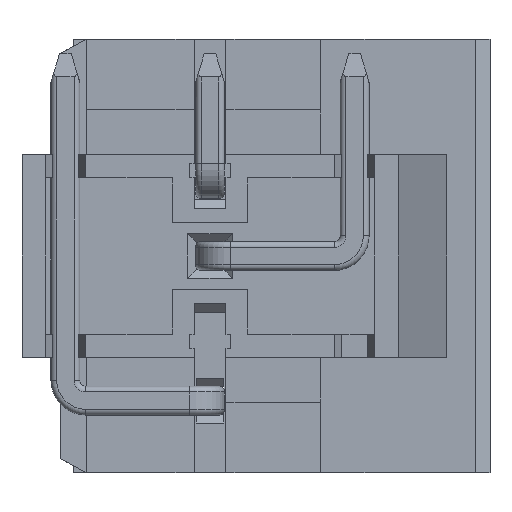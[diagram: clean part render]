
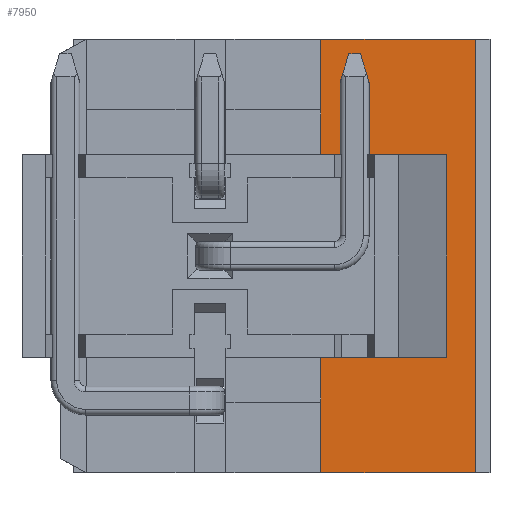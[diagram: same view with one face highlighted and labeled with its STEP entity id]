
A CAD part, front view. The second image highlights one B-rep face of the part: STEP entity #7950.
In plain terms, the highlighted planar face has unit normal (0, -1, 0).
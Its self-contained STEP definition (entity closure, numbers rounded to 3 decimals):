
#213=DIRECTION('',(0.,0.,1.));
#214=VECTOR('',#213,15.);
#215=CARTESIAN_POINT('',(9.18,8.6,-7.5));
#216=LINE('',#215,#214);
#217=DIRECTION('',(-1.,0.,0.));
#218=VECTOR('',#217,5.35);
#219=CARTESIAN_POINT('',(9.18,8.6,-7.5));
#220=LINE('',#219,#218);
#221=DIRECTION('',(0.,0.,1.));
#222=VECTOR('',#221,7.);
#223=CARTESIAN_POINT('',(3.83,8.6,-7.5));
#224=LINE('',#223,#222);
#225=DIRECTION('',(0.,0.,1.));
#226=VECTOR('',#225,3.);
#227=CARTESIAN_POINT('',(7.18,8.6,-3.5));
#228=LINE('',#227,#226);
#229=DIRECTION('',(1.,0.,0.));
#230=VECTOR('',#229,1.);
#231=CARTESIAN_POINT('',(7.18,8.6,-3.5));
#232=LINE('',#231,#230);
#233=DIRECTION('',(0.,0.,1.));
#234=VECTOR('',#233,7.);
#235=CARTESIAN_POINT('',(8.18,8.6,-3.5));
#236=LINE('',#235,#234);
#237=DIRECTION('',(1.,0.,0.));
#238=VECTOR('',#237,1.);
#239=CARTESIAN_POINT('',(7.18,8.6,3.5));
#240=LINE('',#239,#238);
#241=DIRECTION('',(0.,0.,-1.));
#242=VECTOR('',#241,3.);
#243=CARTESIAN_POINT('',(7.18,8.6,3.5));
#244=LINE('',#243,#242);
#245=DIRECTION('',(0.,0.,1.));
#246=VECTOR('',#245,7.);
#247=CARTESIAN_POINT('',(3.83,8.6,0.5));
#248=LINE('',#247,#246);
#249=DIRECTION('',(1.,0.,0.));
#250=VECTOR('',#249,5.35);
#251=CARTESIAN_POINT('',(3.83,8.6,7.5));
#252=LINE('',#251,#250);
#1327=DIRECTION('',(-1.,0.,0.));
#1328=VECTOR('',#1327,3.35);
#1329=CARTESIAN_POINT('',(7.18,8.6,0.5));
#1330=LINE('',#1329,#1328);
#6155=DIRECTION('',(-1.,0.,0.));
#6156=VECTOR('',#6155,3.35);
#6157=CARTESIAN_POINT('',(7.18,8.6,-0.5));
#6158=LINE('',#6157,#6156);
#6354=CARTESIAN_POINT('',(3.83,8.6,7.5));
#6355=VERTEX_POINT('',#6354);
#6356=CARTESIAN_POINT('',(3.83,8.6,-7.5));
#6357=VERTEX_POINT('',#6356);
#6374=CARTESIAN_POINT('',(8.18,8.6,-3.5));
#6375=CARTESIAN_POINT('',(8.18,8.6,3.5));
#6376=VERTEX_POINT('',#6374);
#6377=VERTEX_POINT('',#6375);
#6386=CARTESIAN_POINT('',(3.83,8.6,0.5));
#6388=VERTEX_POINT('',#6386);
#6394=CARTESIAN_POINT('',(7.18,8.6,0.5));
#6395=VERTEX_POINT('',#6394);
#6408=CARTESIAN_POINT('',(7.18,8.6,3.5));
#6409=VERTEX_POINT('',#6408);
#6416=CARTESIAN_POINT('',(3.83,8.6,-0.5));
#6418=VERTEX_POINT('',#6416);
#6424=CARTESIAN_POINT('',(7.18,8.6,-0.5));
#6425=VERTEX_POINT('',#6424);
#6438=CARTESIAN_POINT('',(7.18,8.6,-3.5));
#6439=VERTEX_POINT('',#6438);
#6926=CARTESIAN_POINT('',(9.18,8.6,7.5));
#6928=VERTEX_POINT('',#6926);
#6932=CARTESIAN_POINT('',(9.18,8.6,-7.5));
#6933=VERTEX_POINT('',#6932);
#7922=CARTESIAN_POINT('',(0.,8.6,-2.5));
#7923=DIRECTION('',(0.,1.,0.));
#7924=DIRECTION('',(1.,0.,0.));
#7925=AXIS2_PLACEMENT_3D('',#7922,#7923,#7924);
#7926=PLANE('',#7925);
#7927=ORIENTED_EDGE('',*,*,#7862,.F.);
#7928=ORIENTED_EDGE('',*,*,#7847,.T.);
#7930=ORIENTED_EDGE('',*,*,#7929,.T.);
#7932=ORIENTED_EDGE('',*,*,#7931,.F.);
#7934=ORIENTED_EDGE('',*,*,#7933,.F.);
#7936=ORIENTED_EDGE('',*,*,#7935,.T.);
#7938=ORIENTED_EDGE('',*,*,#7937,.T.);
#7940=ORIENTED_EDGE('',*,*,#7939,.F.);
#7942=ORIENTED_EDGE('',*,*,#7941,.T.);
#7944=ORIENTED_EDGE('',*,*,#7943,.T.);
#7946=ORIENTED_EDGE('',*,*,#7945,.T.);
#7947=ORIENTED_EDGE('',*,*,#7873,.T.);
#7948=EDGE_LOOP('',(#7927,#7928,#7930,#7932,#7934,#7936,#7938,#7940,#7942,#7944,
#7946,#7947));
#7949=FACE_OUTER_BOUND('',#7948,.F.);
#7950=ADVANCED_FACE('',(#7949),#7926,.F.);
#7847=EDGE_CURVE('',#6933,#6357,#220,.T.);
#7862=EDGE_CURVE('',#6933,#6928,#216,.T.);
#7873=EDGE_CURVE('',#6355,#6928,#252,.T.);
#7929=EDGE_CURVE('',#6357,#6418,#224,.T.);
#7931=EDGE_CURVE('',#6425,#6418,#6158,.T.);
#7933=EDGE_CURVE('',#6439,#6425,#228,.T.);
#7935=EDGE_CURVE('',#6439,#6376,#232,.T.);
#7937=EDGE_CURVE('',#6376,#6377,#236,.T.);
#7939=EDGE_CURVE('',#6409,#6377,#240,.T.);
#7941=EDGE_CURVE('',#6409,#6395,#244,.T.);
#7943=EDGE_CURVE('',#6395,#6388,#1330,.T.);
#7945=EDGE_CURVE('',#6388,#6355,#248,.T.);
